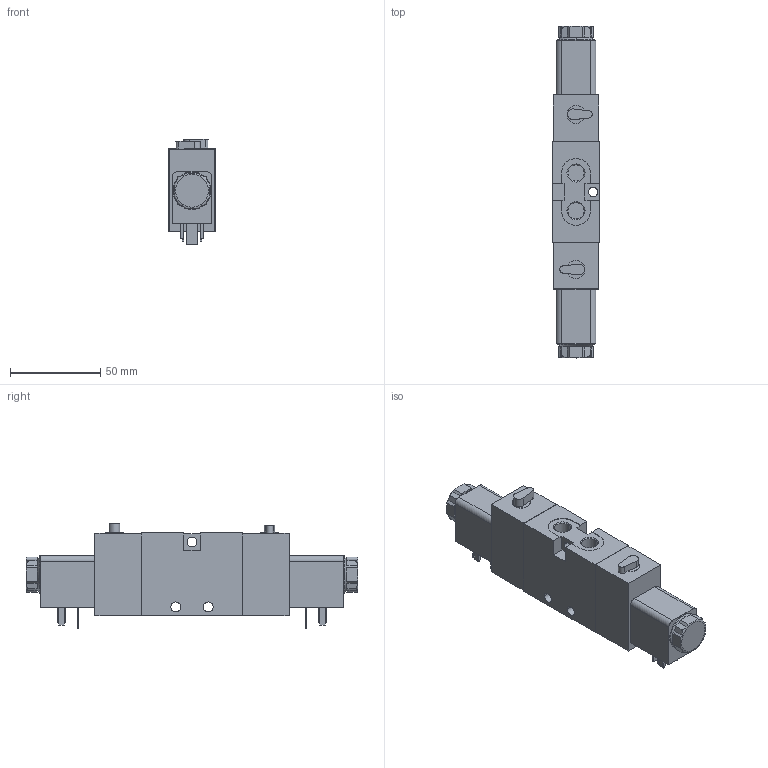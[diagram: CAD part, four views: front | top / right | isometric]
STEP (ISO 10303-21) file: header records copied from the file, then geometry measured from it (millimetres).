
FILE_DESCRIPTION((''),'2;1');
FILE_NAME('5777200220','2019-05-15T',('PDH2HC'),(''),'CREO PARAMETRIC BY PTC INC, 2016260','CREO PARAMETRIC BY PTC INC, 2016260','');
FILE_SCHEMA(('CONFIG_CONTROL_DESIGN'));
Length unit declared in the file: millimetre
Products named in the file (1): 5777200220
Bounding box: 26 x 184 x 58.5 mm (x, y, z)
Volume: 163831.3 mm3; surface area: 29498.2 mm2
Topology: 1 solids, 1 shells, 232 faces, 588 edges, 380 vertices
Faces by surface type: plane 162, cylinder 40, cone 22, torus 8
Entity records: 7521 total; most frequent: CARTESIAN_POINT 1856, ORIENTED_EDGE 1168, DIRECTION 1122, EDGE_CURVE 584, VECTOR 422, LINE 422, VERTEX_POINT 380, AXIS2_PLACEMENT_3D 350
